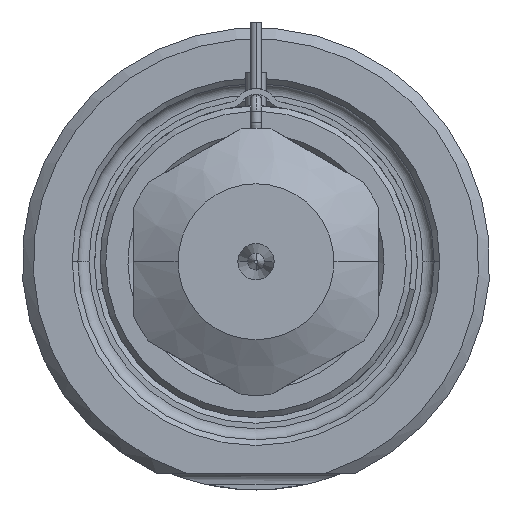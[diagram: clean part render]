
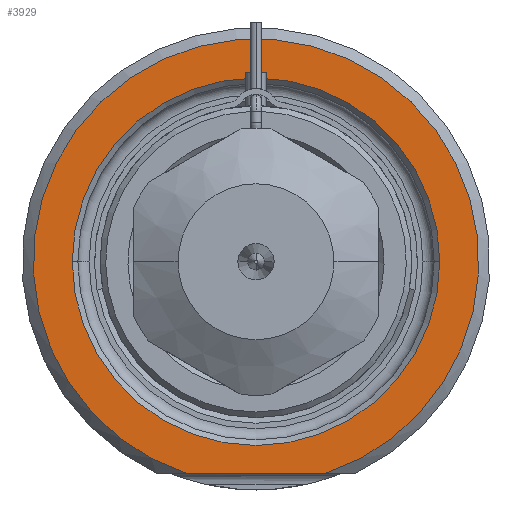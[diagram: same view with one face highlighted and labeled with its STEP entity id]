
A CAD part, front view. The second image highlights one B-rep face of the part: STEP entity #3929.
In plain terms, the highlighted planar face has unit normal (0, -1, 0).
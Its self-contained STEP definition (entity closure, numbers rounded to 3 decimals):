
#1=DIRECTION('',(1.,0.,0.));
#2=VECTOR('',#1,12.49);
#3=CARTESIAN_POINT('',(-6.245,0.,-19.));
#4=LINE('',#3,#2);
#5=CARTESIAN_POINT('',(0.,0.,0.));
#6=DIRECTION('',(0.,1.,0.));
#7=DIRECTION('',(-1.,0.,0.));
#8=AXIS2_PLACEMENT_3D('',#5,#6,#7);
#10=CARTESIAN_POINT('',(0.,0.,0.));
#11=DIRECTION('',(0.,1.,0.));
#12=DIRECTION('',(1.,0.,0.));
#13=AXIS2_PLACEMENT_3D('',#10,#11,#12);
#119=CARTESIAN_POINT('',(0.,0.,0.));
#120=DIRECTION('',(0.,-1.,0.));
#121=DIRECTION('',(0.312,0.,-0.95));
#122=AXIS2_PLACEMENT_3D('',#119,#120,#121);
#3297=CARTESIAN_POINT('',(-16.5,0.,0.));
#3298=CARTESIAN_POINT('',(16.5,0.,0.));
#3299=VERTEX_POINT('',#3297);
#3300=VERTEX_POINT('',#3298);
#3337=CARTESIAN_POINT('',(-6.245,0.,-19.));
#3338=CARTESIAN_POINT('',(6.245,0.,-19.));
#3339=VERTEX_POINT('',#3337);
#3340=VERTEX_POINT('',#3338);
#3912=CARTESIAN_POINT('',(0.,0.,0.));
#3913=DIRECTION('',(0.,-1.,0.));
#3914=DIRECTION('',(1.,0.,0.));
#3915=AXIS2_PLACEMENT_3D('',#3912,#3913,#3914);
#3916=PLANE('',#3915);
#3918=ORIENTED_EDGE('',*,*,#3917,.F.);
#3920=ORIENTED_EDGE('',*,*,#3919,.F.);
#3921=EDGE_LOOP('',(#3918,#3920));
#3922=FACE_OUTER_BOUND('',#3921,.F.);
#3924=ORIENTED_EDGE('',*,*,#3923,.F.);
#3926=ORIENTED_EDGE('',*,*,#3925,.F.);
#3927=EDGE_LOOP('',(#3924,#3926));
#3928=FACE_BOUND('',#3927,.F.);
#3929=ADVANCED_FACE('',(#3922,#3928),#3916,.T.);
#9=CIRCLE('',#8,16.5);
#14=CIRCLE('',#13,16.5);
#123=CIRCLE('',#122,20.);
#3917=EDGE_CURVE('',#3339,#3340,#4,.T.);
#3919=EDGE_CURVE('',#3340,#3339,#123,.T.);
#3923=EDGE_CURVE('',#3299,#3300,#9,.T.);
#3925=EDGE_CURVE('',#3300,#3299,#14,.T.);
